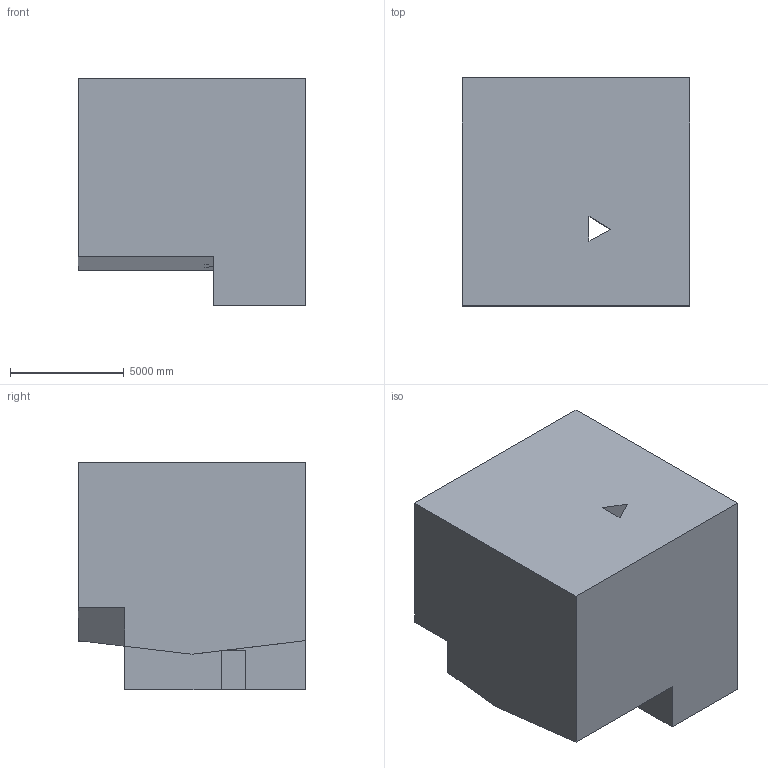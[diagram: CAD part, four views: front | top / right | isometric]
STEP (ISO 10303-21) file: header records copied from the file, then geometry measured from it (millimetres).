
FILE_DESCRIPTION (( 'STEP AP203' ), '1' );
FILE_NAME ('1570.STEP', '2022-08-18T15:51:59', ( 'user' ), ( '' ), 'SwSTEP 2.0', 'SolidWorks 2021', '' );
FILE_SCHEMA (( 'CONFIG_CONTROL_DESIGN' ));
Length unit declared in the file: centimetre
Products named in the file (1): 1570
Bounding box: 10000 x 10000 x 10000 mm (x, y, z)
Volume: 825728291897.7 mm3; surface area: 648686928.6 mm2
Topology: 1 solids, 1 shells, 33 faces, 103 edges, 68 vertices
Faces by surface type: plane 31, cylinder 2
Entity records: 1213 total; most frequent: CARTESIAN_POINT 223, ORIENTED_EDGE 206, DIRECTION 168, EDGE_CURVE 103, LINE 94, VECTOR 94, VERTEX_POINT 68, AXIS2_PLACEMENT_3D 37
